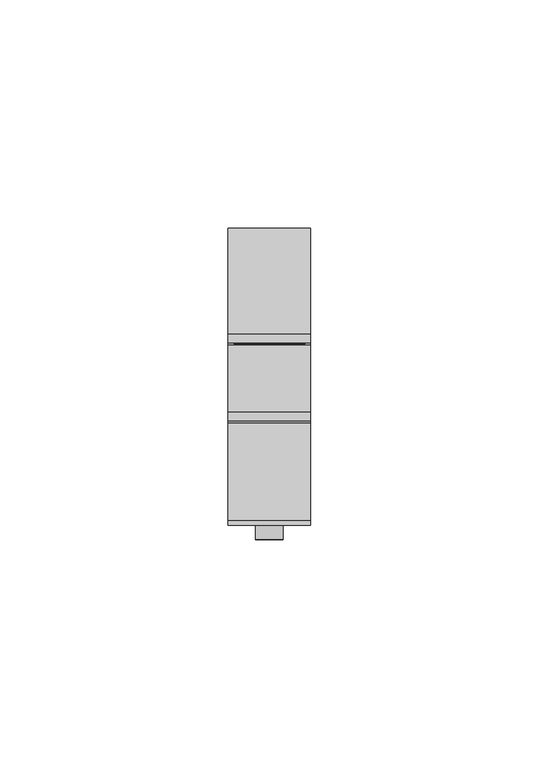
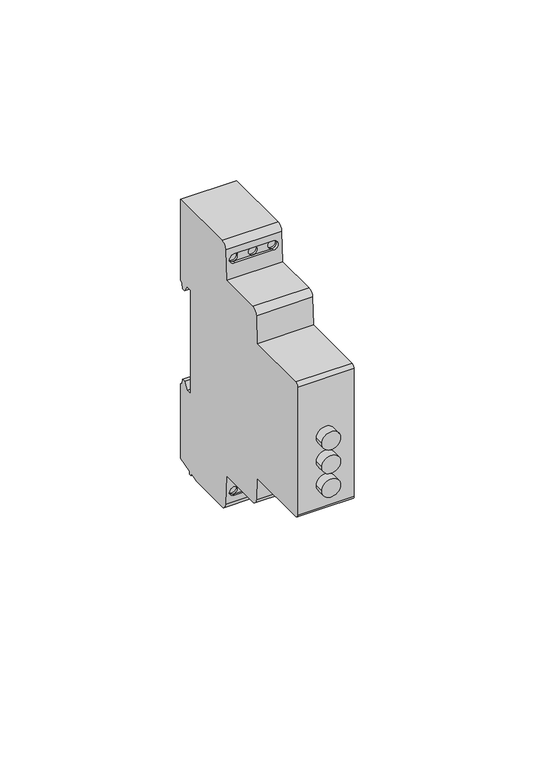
"""IFC4 building model written with IfcOpenShell, lengths in millimetres: proxy geometry, TDM_РЕЛЕ ВРЕМЕНИ НА DIN-РЕЙКУ СЕРИИ РВМ : РВМ 0.1с/10дн 8А 12-230 AC."""

from ifc_helpers import new_model, si_unit, point, frame, frame_2d, origin, place, context, project, spatial, polyline, circle_curve, ellipse_curve, trimmed, segment, composite_curve, outline, extrude, source, transform, mapped, element, save
from ifc_brep_helpers import plane_surface, cylinder_surface, revolved_surface, advanced_brep


def electrical_equipment_08aeb7cd(model_context):
    return source(origin(), model_context, "Body", "SolidModel", [
        extrude(outline(composite_curve([segment(trimmed(circle_curve(frame_2d((1.4993959, 0.0)), 3.0), [point((1.4993959, -3.0))], [point((1.4993959, 3.0))], False, "CARTESIAN"), True, "CONTINUOUS"), segment(trimmed(circle_curve(frame_2d((1.4993959, 0.0)), 3.0), [point((1.4993959, 3.0))], [point((1.4993959, -3.0))], False, "CARTESIAN"), True, "CONTINUOUS")], self_intersect=False)), frame((0.0, -30.5593993, 0.0), z_axis=(0.0, 1.0, 0.0), x_axis=(0.0, 0.0, 1.0)), (0.0, 0.0, 1.0), 3.0593993),
        extrude(outline(composite_curve([segment(trimmed(circle_curve(frame_2d((-6.5006041, 0.0)), 3.0), [point((-6.5006041, -3.0))], [point((-6.5006041, 3.0))], False, "CARTESIAN"), True, "CONTINUOUS"), segment(trimmed(circle_curve(frame_2d((-6.5006041, 0.0)), 3.0), [point((-6.5006041, 3.0))], [point((-6.5006041, -3.0))], False, "CARTESIAN"), True, "CONTINUOUS")], self_intersect=False)), frame((0.0, -30.5593993, 0.0), z_axis=(0.0, 1.0, 0.0), x_axis=(0.0, 0.0, 1.0)), (0.0, 0.0, 1.0), 3.0593993),
        extrude(outline(composite_curve([segment(trimmed(circle_curve(frame_2d((-14.5006041, 0.0)), 3.0), [point((-14.5006041, -3.0))], [point((-14.5006041, 3.0))], False, "CARTESIAN"), True, "CONTINUOUS"), segment(trimmed(circle_curve(frame_2d((-14.5006041, 0.0)), 3.0), [point((-14.5006041, 3.0))], [point((-14.5006041, -3.0))], False, "CARTESIAN"), True, "CONTINUOUS")], self_intersect=False)), frame((0.0, -30.5593993, 0.0), z_axis=(0.0, 1.0, 0.0), x_axis=(0.0, 0.0, 1.0)), (0.0, 0.0, 1.0), 3.0593993),
        extrude(outline(polyline([(7.75, 16.6821204), (7.75, 14.1138713), (-7.75, 14.1138713), (-7.75, 16.6821204), (7.75, 16.6821204)])), frame((0.0, 0.0, -44.0625), z_axis=(0.0, 0.0, 1.0), x_axis=(1.0, 0.0, 0.0)), (0.0, 0.0, 1.0), 87.8126081),
        advanced_brep(
        [(9.0, 31.7632568, 17.7057143), (9.0, 33.7632568, 17.7057143), (9.0, 35.0790621, 15.4266726), (9.0, 36.2042493, 15.4266726), (9.0, 36.5256071, 17.2491835), (9.0, 37.5, 17.8117495), (9.0, 37.5, 45.0), (9.0, 14.5, 45.0), (9.0, 12.5, 43.0), (9.0, 11.9790691, 33.0600462), (9.0, -2.6020709, 33.0600462), (9.0, -4.5993299, 31.1647181), (9.0, -5.0796325, 22.0), (9.0, -26.3777313, 22.0), (9.0, -27.5, 20.8777313), (9.0, -27.5, -22.3875602), (9.0, -26.3875602, -23.5), (9.0, -5.0010208, -23.5), (9.0, -4.5993299, -31.1647181), (9.0, -2.6020709, -33.0600462), (9.0, 11.9790691, -33.0600462), (9.0, 12.5, -43.0), (9.0, 14.5, -45.0), (9.0, 28.5548029, -45.0), (9.0, 31.6319498, -44.175481), (9.0, 31.6319498, -45.0), (9.0, 32.5, -45.0), (9.0, 32.5, -43.9428876), (9.0, 37.5, -42.6031417), (9.0, 37.5, -17.4003208), (9.0, 36.5256071, -16.8377548), (9.0, 36.2042493, -15.0152439), (9.0, 35.0790621, -15.0152439), (9.0, 33.7632568, -17.2942857), (9.0, 31.7632568, -17.2942857), (-9.0, 31.7632568, 17.7057143), (-9.0, 31.7632568, -17.2942857), (-9.0, 33.7632568, -17.2942857), (-9.0, 35.0790621, -15.0152439), (-9.0, 36.2042493, -15.0152439), (-9.0, 36.5256071, -16.8377548), (-9.0, 37.5, -17.4003208), (-9.0, 37.5, -42.6031417), (-9.0, 32.5, -43.9428876), (-9.0, 32.5, -45.0), (-9.0, 31.6319498, -45.0), (-9.0, 31.6319498, -44.175481), (-9.0, 28.5548029, -45.0), (-9.0, 14.5, -45.0), (-9.0, 12.5, -43.0), (-9.0, 11.9790691, -33.0600462), (-9.0, -2.6020709, -33.0600462), (-9.0, -4.5993299, -31.1647181), (-9.0, -5.0010208, -23.5), (-9.0, -26.3875602, -23.5), (-9.0, -27.5, -22.3875602), (-9.0, -27.5, 20.8777313), (-9.0, -26.3777313, 22.0), (-9.0, -5.0796325, 22.0), (-9.0, -4.5993299, 31.1647181), (-9.0, -2.6020709, 33.0600462), (-9.0, 11.9790691, 33.0600462), (-9.0, 12.5, 43.0), (-9.0, 14.5, 45.0), (-9.0, 37.5, 45.0), (-9.0, 37.5, 17.8117495), (-9.0, 36.5256071, 17.2491835), (-9.0, 36.2042493, 15.4266726), (-9.0, 35.0790621, 15.4266726), (-9.0, 33.7632568, 17.7057143), (6.25, 13.0378948, -37.8135116), (0.0239013, 13.0378948, -37.8135116), (1.5239013, 13.0378948, -39.3135116), (0.0239013, 13.0378948, -40.8135116), (6.25, 13.0378948, -40.8135116), (4.75, 13.0378948, -39.3135116), (-6.25, 13.0378948, -37.8135116), (-4.75, 13.0378948, -39.3135116), (-6.25, 13.0378948, -40.8135116), (-1.4760987, 13.0378948, -39.3135116), (6.25, 13.0378948, 40.8135116), (0.0239013, 13.0378948, 40.8135116), (1.5239013, 13.0378948, 39.3135116), (0.0239013, 13.0378948, 37.8135116), (6.25, 13.0378948, 37.8135116), (4.75, 13.0378948, 39.3135116), (-6.25, 13.0378948, 40.8135116), (-4.75, 13.0378948, 39.3135116), (-6.25, 13.0378948, 37.8135116), (-1.4760987, 13.0378948, 39.3135116), (6.25, 12.2281877, 37.8135116), (0.0239013, 12.2281877, 37.8135116), (-6.25, 12.2281877, 37.8135116), (-7.75, 12.3067993, 39.3135116), (-6.25, 12.385411, 40.8135116), (0.0239013, 12.385411, 40.8135116), (6.25, 12.385411, 40.8135116), (7.75, 12.3067993, 39.3135116), (0.0239013, 12.2281877, -37.8135116), (6.25, 12.2281877, -37.8135116), (7.75, 12.3067993, -39.3135116), (6.25, 12.385411, -40.8135116), (0.0239013, 12.385411, -40.8135116), (-6.25, 12.385411, -40.8135116), (-7.75, 12.3067993, -39.3135116), (-6.25, 12.2281877, -37.8135116), (-7.75, 13.0378948, -39.3135116), (7.75, 13.0378948, -39.3135116), (7.75, 13.0378948, 39.3135116), (-7.75, 13.0378948, 39.3135116), (-4.75, 15.2465164, -39.3135116), (-7.75, 15.2465164, -39.3135116), (1.5239013, 15.2465164, -39.3135116), (-1.4760987, 15.2465164, -39.3135116), (4.75, 15.2465164, -39.3135116), (7.75, 15.2465164, -39.3135116), (-4.75, 15.2465164, 39.3135116), (-7.75, 15.2465164, 39.3135116), (1.5239013, 15.2465164, 39.3135116), (-1.4760987, 15.2465164, 39.3135116), (4.75, 15.2465164, 39.3135116), (7.75, 15.2465164, 39.3135116)],
        [
            (0, 1),
            (1, 2),
            (2, 3),
            (3, 4),
            (4, 5),
            (5, 6),
            (6, 7),
            (7, 8, circle_curve(frame((9.0, 14.5, 43.0), z_axis=(1.0, 0.0, 0.0), x_axis=(0.0, -1.0, 0.0)), 2.0)),
            (8, 9),
            (9, 10),
            (10, 11, circle_curve(frame((9.0, -2.6020709, 31.0600462), z_axis=(1.0, 0.0, 0.0), x_axis=(0.0, -1.0, 0.0)), 2.0)),
            (11, 12),
            (12, 13),
            (13, 14, circle_curve(frame((9.0, -26.3777313, 20.8777313), z_axis=(1.0, 0.0, 0.0), x_axis=(0.0, -1.0, 0.0)), 1.1222687)),
            (14, 15),
            (15, 16, circle_curve(frame((9.0, -26.3875602, -22.3875602), z_axis=(1.0, 0.0, 0.0), x_axis=(0.0, -1.0, 0.0)), 1.1124398)),
            (16, 17),
            (17, 18),
            (18, 19, circle_curve(frame((9.0, -2.6020709, -31.0600462), z_axis=(1.0, 0.0, 0.0), x_axis=(0.0, -1.0, 0.0)), 2.0)),
            (19, 20),
            (20, 21),
            (21, 22, circle_curve(frame((9.0, 14.5, -43.0), z_axis=(1.0, 0.0, 0.0), x_axis=(0.0, -1.0, 0.0)), 2.0)),
            (22, 23),
            (23, 24),
            (24, 25),
            (25, 26),
            (26, 27),
            (27, 28),
            (28, 29),
            (29, 30),
            (30, 31),
            (31, 32),
            (32, 33),
            (33, 34),
            (34, 0),
            (35, 36),
            (36, 37),
            (37, 38),
            (38, 39),
            (39, 40),
            (40, 41),
            (41, 42),
            (42, 43),
            (43, 44),
            (44, 45),
            (45, 46),
            (46, 47),
            (47, 48),
            (48, 49, circle_curve(frame((-9.0, 14.5, -43.0), z_axis=(-1.0, 0.0, 0.0), x_axis=(0.0, -1.0, 0.0)), 2.0)),
            (49, 50),
            (50, 51),
            (51, 52, circle_curve(frame((-9.0, -2.6020709, -31.0600462), z_axis=(-1.0, 0.0, 0.0), x_axis=(0.0, -1.0, 0.0)), 2.0)),
            (52, 53),
            (53, 54),
            (54, 55, circle_curve(frame((-9.0, -26.3875602, -22.3875602), z_axis=(-1.0, 0.0, 0.0), x_axis=(0.0, -1.0, 0.0)), 1.1124398)),
            (55, 56),
            (56, 57, circle_curve(frame((-9.0, -26.3777313, 20.8777313), z_axis=(-1.0, 0.0, 0.0), x_axis=(0.0, -1.0, 0.0)), 1.1222687)),
            (57, 58),
            (58, 59),
            (59, 60, circle_curve(frame((-9.0, -2.6020709, 31.0600462), z_axis=(-1.0, 0.0, 0.0), x_axis=(0.0, -1.0, 0.0)), 2.0)),
            (60, 61),
            (61, 62),
            (62, 63, circle_curve(frame((-9.0, 14.5, 43.0), z_axis=(-1.0, 0.0, 0.0), x_axis=(0.0, -1.0, 0.0)), 2.0)),
            (63, 64),
            (64, 65),
            (65, 66),
            (66, 67),
            (67, 68),
            (68, 69),
            (69, 35),
            (70, 71),
            (71, 72, circle_curve(frame((0.0239013, 13.0378948, -39.3135116), z_axis=(0.0, 1.0, 0.0), x_axis=(-1.0, 0.0, 0.0)), 1.5)),
            (72, 73, circle_curve(frame((0.0239013, 13.0378948, -39.3135116), z_axis=(0.0, 1.0, 0.0), x_axis=(-1.0, 0.0, 0.0)), 1.5)),
            (73, 74),
            (74, 75, circle_curve(frame((6.25, 13.0378948, -39.3135116), z_axis=(0.0, 1.0, 0.0), x_axis=(1.0, 0.0, 0.0)), 1.5)),
            (75, 70, circle_curve(frame((6.25, 13.0378948, -39.3135116), z_axis=(0.0, 1.0, 0.0), x_axis=(1.0, 0.0, 0.0)), 1.5)),
            (71, 76),
            (76, 77, circle_curve(frame((-6.25, 13.0378948, -39.3135116), z_axis=(0.0, 1.0, 0.0), x_axis=(-1.0, 0.0, 0.0)), 1.5)),
            (77, 78, circle_curve(frame((-6.25, 13.0378948, -39.3135116), z_axis=(0.0, 1.0, 0.0), x_axis=(-1.0, 0.0, 0.0)), 1.5)),
            (78, 73),
            (73, 79, circle_curve(frame((0.0239013, 13.0378948, -39.3135116), z_axis=(0.0, 1.0, 0.0), x_axis=(-1.0, 0.0, 0.0)), 1.5)),
            (79, 71, circle_curve(frame((0.0239013, 13.0378948, -39.3135116), z_axis=(0.0, 1.0, 0.0), x_axis=(-1.0, 0.0, 0.0)), 1.5)),
            (80, 81),
            (81, 82, circle_curve(frame((0.0239013, 13.0378948, 39.3135116), z_axis=(0.0, 1.0, 0.0), x_axis=(-1.0, 0.0, 0.0)), 1.5)),
            (82, 83, circle_curve(frame((0.0239013, 13.0378948, 39.3135116), z_axis=(0.0, 1.0, 0.0), x_axis=(-1.0, 0.0, 0.0)), 1.5)),
            (83, 84),
            (84, 85, circle_curve(frame((6.25, 13.0378948, 39.3135116), z_axis=(0.0, 1.0, 0.0), x_axis=(1.0, 0.0, 0.0)), 1.5)),
            (85, 80, circle_curve(frame((6.25, 13.0378948, 39.3135116), z_axis=(0.0, 1.0, 0.0), x_axis=(1.0, 0.0, 0.0)), 1.5)),
            (81, 86),
            (86, 87, circle_curve(frame((-6.25, 13.0378948, 39.3135116), z_axis=(0.0, 1.0, 0.0), x_axis=(-1.0, 0.0, 0.0)), 1.5)),
            (87, 88, circle_curve(frame((-6.25, 13.0378948, 39.3135116), z_axis=(0.0, 1.0, 0.0), x_axis=(-1.0, 0.0, 0.0)), 1.5)),
            (88, 83),
            (83, 89, circle_curve(frame((0.0239013, 13.0378948, 39.3135116), z_axis=(0.0, 1.0, 0.0), x_axis=(-1.0, 0.0, 0.0)), 1.5)),
            (89, 81, circle_curve(frame((0.0239013, 13.0378948, 39.3135116), z_axis=(0.0, 1.0, 0.0), x_axis=(-1.0, 0.0, 0.0)), 1.5)),
            (0, 35),
            (69, 1),
            (68, 2),
            (67, 3),
            (66, 4),
            (65, 5),
            (64, 6),
            (63, 7),
            (62, 8),
            (61, 9),
            (90, 91),
            (91, 92),
            (92, 93, ellipse_curve(frame((-6.25, 12.3067993, 39.3135116), z_axis=(0.0, 0.9986295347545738, -0.052335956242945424), x_axis=(0.0, -0.052335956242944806, -0.9986295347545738)), 1.5020585, 1.5)),
            (93, 94, ellipse_curve(frame((-6.25, 12.3067993, 39.3135116), z_axis=(0.0, 0.9986295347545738, -0.052335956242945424), x_axis=(0.0, -0.052335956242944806, -0.9986295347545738)), 1.5020585, 1.5)),
            (94, 95),
            (95, 96),
            (96, 97, ellipse_curve(frame((6.25, 12.3067993, 39.3135116), z_axis=(0.0, 0.9986295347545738, -0.052335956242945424), x_axis=(0.0, -0.052335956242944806, -0.9986295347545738)), 1.5020585, 1.5)),
            (97, 90, ellipse_curve(frame((6.25, 12.3067993, 39.3135116), z_axis=(0.0, 0.9986295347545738, -0.052335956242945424), x_axis=(0.0, -0.052335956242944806, -0.9986295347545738)), 1.5020585, 1.5)),
            (60, 10),
            (59, 11),
            (58, 12),
            (57, 13),
            (56, 14),
            (55, 15),
            (16, 54),
            (53, 17),
            (52, 18),
            (51, 19),
            (50, 20),
            (49, 21),
            (98, 99),
            (99, 100, ellipse_curve(frame((6.25, 12.3067993, -39.3135116), z_axis=(0.0, 0.9986295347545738, 0.05233595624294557), x_axis=(0.0, -0.05233595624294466, 0.9986295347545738)), 1.5020585, 1.5)),
            (100, 101, ellipse_curve(frame((6.25, 12.3067993, -39.3135116), z_axis=(0.0, 0.9986295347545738, 0.05233595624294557), x_axis=(0.0, -0.05233595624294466, 0.9986295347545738)), 1.5020585, 1.5)),
            (101, 102),
            (102, 103),
            (103, 104, ellipse_curve(frame((-6.25, 12.3067993, -39.3135116), z_axis=(0.0, 0.9986295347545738, 0.05233595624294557), x_axis=(0.0, -0.05233595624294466, 0.9986295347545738)), 1.5020585, 1.5)),
            (104, 105, ellipse_curve(frame((-6.25, 12.3067993, -39.3135116), z_axis=(0.0, 0.9986295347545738, 0.05233595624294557), x_axis=(0.0, -0.05233595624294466, 0.9986295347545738)), 1.5020585, 1.5)),
            (105, 98),
            (48, 22),
            (47, 23),
            (25, 45),
            (44, 26),
            (43, 27),
            (46, 24),
            (28, 42),
            (41, 29),
            (40, 30),
            (39, 31),
            (38, 32),
            (37, 33),
            (36, 34),
            (70, 99),
            (105, 76),
            (103, 78),
            (78, 106, circle_curve(frame((-6.25, 13.0378948, -39.3135116), z_axis=(0.0, 1.0, 0.0), x_axis=(-1.0, 0.0, 0.0)), 1.5)),
            (106, 76, circle_curve(frame((-6.25, 13.0378948, -39.3135116), z_axis=(0.0, 1.0, 0.0), x_axis=(-1.0, 0.0, 0.0)), 1.5)),
            (101, 74),
            (70, 107, circle_curve(frame((6.25, 13.0378948, -39.3135116), z_axis=(0.0, 1.0, 0.0), x_axis=(1.0, 0.0, 0.0)), 1.5)),
            (107, 74, circle_curve(frame((6.25, 13.0378948, -39.3135116), z_axis=(0.0, 1.0, 0.0), x_axis=(1.0, 0.0, 0.0)), 1.5)),
            (84, 90),
            (96, 80),
            (80, 108, circle_curve(frame((6.25, 13.0378948, 39.3135116), z_axis=(0.0, 1.0, 0.0), x_axis=(1.0, 0.0, 0.0)), 1.5)),
            (108, 84, circle_curve(frame((6.25, 13.0378948, 39.3135116), z_axis=(0.0, 1.0, 0.0), x_axis=(1.0, 0.0, 0.0)), 1.5)),
            (94, 86),
            (92, 88),
            (88, 109, circle_curve(frame((-6.25, 13.0378948, 39.3135116), z_axis=(0.0, 1.0, 0.0), x_axis=(-1.0, 0.0, 0.0)), 1.5)),
            (109, 86, circle_curve(frame((-6.25, 13.0378948, 39.3135116), z_axis=(0.0, 1.0, 0.0), x_axis=(-1.0, 0.0, 0.0)), 1.5)),
            (110, 111, circle_curve(frame((-6.25, 15.2465164, -39.3135116), z_axis=(0.0, -1.0, 0.0), x_axis=(-1.0, 0.0, 0.0)), 1.5)),
            (111, 110, circle_curve(frame((-6.25, 15.2465164, -39.3135116), z_axis=(0.0, -1.0, 0.0), x_axis=(-1.0, 0.0, 0.0)), 1.5)),
            (112, 113, circle_curve(frame((0.0239013, 15.2465164, -39.3135116), z_axis=(0.0, -1.0, 0.0), x_axis=(-1.0, 0.0, 0.0)), 1.5)),
            (113, 112, circle_curve(frame((0.0239013, 15.2465164, -39.3135116), z_axis=(0.0, -1.0, 0.0), x_axis=(-1.0, 0.0, 0.0)), 1.5)),
            (114, 115, circle_curve(frame((6.25, 15.2465164, -39.3135116), z_axis=(0.0, -1.0, 0.0), x_axis=(1.0, 0.0, 0.0)), 1.5)),
            (115, 114, circle_curve(frame((6.25, 15.2465164, -39.3135116), z_axis=(0.0, -1.0, 0.0), x_axis=(1.0, 0.0, 0.0)), 1.5)),
            (116, 117, circle_curve(frame((-6.25, 15.2465164, 39.3135116), z_axis=(0.0, -1.0, 0.0), x_axis=(-1.0, 0.0, 0.0)), 1.5)),
            (117, 116, circle_curve(frame((-6.25, 15.2465164, 39.3135116), z_axis=(0.0, -1.0, 0.0), x_axis=(-1.0, 0.0, 0.0)), 1.5)),
            (118, 119, circle_curve(frame((0.0239013, 15.2465164, 39.3135116), z_axis=(0.0, -1.0, 0.0), x_axis=(-1.0, 0.0, 0.0)), 1.5)),
            (119, 118, circle_curve(frame((0.0239013, 15.2465164, 39.3135116), z_axis=(0.0, -1.0, 0.0), x_axis=(-1.0, 0.0, 0.0)), 1.5)),
            (120, 121, circle_curve(frame((6.25, 15.2465164, 39.3135116), z_axis=(0.0, -1.0, 0.0), x_axis=(1.0, 0.0, 0.0)), 1.5)),
            (121, 120, circle_curve(frame((6.25, 15.2465164, 39.3135116), z_axis=(0.0, -1.0, 0.0), x_axis=(1.0, 0.0, 0.0)), 1.5)),
            (110, 77),
            (106, 111),
            (112, 72),
            (79, 113),
            (114, 75),
            (107, 115),
            (116, 87),
            (109, 117),
            (118, 82),
            (89, 119),
            (120, 85),
            (108, 121),
        ],
        [
            plane_surface(frame((9.0, 31.7632568, 17.7057143), z_axis=(1.0, 0.0, 0.0), x_axis=(0.0, 1.0, 0.0))),
            plane_surface(frame((-9.0, 31.7632568, 17.7057143), z_axis=(-1.0, 0.0, 0.0), x_axis=(0.0, -1.0, 0.0))),
            plane_surface(frame((-7.75, 13.0378948, -37.8135116), z_axis=(0.0, -1.0, 0.0), x_axis=(1.0, 0.0, 0.0))),
            plane_surface(frame((9.0, 31.7632568, 17.7057143), z_axis=(0.0, 0.0, -1.0), x_axis=(-1.0, 0.0, 0.0))),
            plane_surface(frame((9.0, 33.7632568, 17.7057143), z_axis=(0.0, -0.8660254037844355, -0.5000000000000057), x_axis=(-1.0, 0.0, 0.0))),
            plane_surface(frame((9.0, 35.0790621, 15.4266726), z_axis=(0.0, 0.0, -1.0), x_axis=(-1.0, 0.0, 0.0))),
            plane_surface(frame((9.0, 36.2042493, 15.4266726), z_axis=(0.0, 0.984807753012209, -0.17364817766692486), x_axis=(-1.0, 0.0, 0.0))),
            plane_surface(frame((9.0, 36.5256071, 17.2491835), z_axis=(0.0, 0.5000000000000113, -0.8660254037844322), x_axis=(-1.0, 0.0, 0.0))),
            plane_surface(frame((9.0, 37.5, 17.8117495), z_axis=(0.0, 1.0, 0.0), x_axis=(-1.0, 0.0, 0.0))),
            plane_surface(frame((9.0, 37.5, 45.0), z_axis=(0.0, 0.0, 1.0), x_axis=(-1.0, 0.0, 0.0))),
            cylinder_surface(frame((-9.0, 14.5, 43.0), z_axis=(1.0, 0.0, 0.0), x_axis=(0.0, -1.0, 0.0)), 2.0),
            plane_surface(frame((9.0, 12.5, 43.0), z_axis=(0.0, -0.9986295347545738, 0.052335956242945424), x_axis=(-1.0, 0.0, 0.0))),
            plane_surface(frame((9.0, 11.9790691, 33.0600462), z_axis=(0.0, 0.0, 1.0), x_axis=(-1.0, 0.0, 0.0))),
            cylinder_surface(frame((-9.0, -2.6020709, 31.0600462), z_axis=(1.0, 0.0, 0.0), x_axis=(0.0, -1.0, 0.0)), 2.0),
            plane_surface(frame((9.0, -4.5993299, 31.1647181), z_axis=(0.0, -0.9986295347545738, 0.052335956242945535), x_axis=(-1.0, 0.0, 0.0))),
            plane_surface(frame((9.0, -5.0796325, 22.0), z_axis=(0.0, 0.0, 1.0), x_axis=(-1.0, 0.0, 0.0))),
            cylinder_surface(frame((-9.0, -26.3777313, 20.8777313), z_axis=(1.0, 0.0, 0.0), x_axis=(0.0, -1.0, 0.0)), 1.1222687),
            plane_surface(frame((9.0, -27.5, 20.8777313), z_axis=(0.0, -1.0, 0.0), x_axis=(-1.0, 0.0, 0.0))),
            plane_surface(frame((9.0, -26.3875602, -23.5), z_axis=(0.0, 0.0, -1.0), x_axis=(-1.0, 0.0, 0.0))),
            plane_surface(frame((9.0, -5.0010208, -23.5), z_axis=(0.0, -0.9986295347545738, -0.05233595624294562), x_axis=(-1.0, 0.0, 0.0))),
            cylinder_surface(frame((-9.0, -2.6020709, -31.0600462), z_axis=(1.0, 0.0, 0.0), x_axis=(0.0, -1.0, 0.0)), 2.0),
            plane_surface(frame((9.0, -2.6020709, -33.0600462), z_axis=(0.0, 0.0, -1.0), x_axis=(-1.0, 0.0, 0.0))),
            plane_surface(frame((9.0, 11.9790691, -33.0600462), z_axis=(0.0, -0.9986295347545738, -0.05233595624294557), x_axis=(-1.0, 0.0, 0.0))),
            cylinder_surface(frame((-9.0, 14.5, -43.0), z_axis=(1.0, 0.0, 0.0), x_axis=(0.0, -1.0, 0.0)), 2.0),
            plane_surface(frame((9.0, 14.5, -45.0), z_axis=(0.0, 0.0, -1.0), x_axis=(-1.0, 0.0, 0.0))),
            plane_surface(frame((9.0, 31.6319498, -45.0), z_axis=(0.0, 0.0, -1.0), x_axis=(-1.0, 0.0, 0.0))),
            plane_surface(frame((9.0, 32.5, -45.0), z_axis=(0.0, 1.0, 0.0), x_axis=(-1.0, 0.0, 0.0))),
            plane_surface(frame((9.0, 28.5548029, -45.0), z_axis=(0.0, 0.2588190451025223, -0.965925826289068), x_axis=(-1.0, 0.0, 0.0))),
            plane_surface(frame((9.0, 37.5, -42.6031417), z_axis=(0.0, 1.0, 0.0), x_axis=(-1.0, 0.0, 0.0))),
            plane_surface(frame((9.0, 37.5, -17.4003208), z_axis=(0.0, 0.5000000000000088, 0.8660254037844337), x_axis=(-1.0, 0.0, 0.0))),
            plane_surface(frame((9.0, 36.5256071, -16.8377548), z_axis=(0.0, 0.9848077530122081, 0.17364817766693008), x_axis=(-1.0, 0.0, 0.0))),
            plane_surface(frame((9.0, 36.2042493, -15.0152439), z_axis=(0.0, 0.0, 1.0), x_axis=(-1.0, 0.0, 0.0))),
            plane_surface(frame((9.0, 35.0790621, -15.0152439), z_axis=(0.0, -0.8660254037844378, 0.5000000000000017), x_axis=(-1.0, 0.0, 0.0))),
            plane_surface(frame((9.0, 33.7632568, -17.2942857), z_axis=(0.0, 0.0, 1.0), x_axis=(-1.0, 0.0, 0.0))),
            plane_surface(frame((9.0, 31.7632568, -17.2942857), z_axis=(0.0, 1.0, 0.0), x_axis=(-1.0, 0.0, 0.0))),
            cylinder_surface(frame((-9.0, -26.3875602, -22.3875602), z_axis=(1.0, 0.0, 0.0), x_axis=(0.0, -1.0, 0.0)), 1.1124398),
            plane_surface(frame((6.25, 0.0, -37.8135116), z_axis=(0.0, 0.0, -1.0), x_axis=(0.0, 1.0, 0.0))),
            revolved_surface(polyline([(-7.75, 12.228187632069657, -39.3135116), (-7.75, 13.0378948, -39.3135116)]), (-6.25, 13.0378948, -39.3135116), (0.0, -1.0, 0.0)),
            plane_surface(frame((-6.25, 0.0, -40.8135116), z_axis=(0.0, 0.0, 1.0), x_axis=(0.0, 1.0, 0.0))),
            revolved_surface(polyline([(7.75, 12.228187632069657, -39.3135116), (7.75, 13.0378948, -39.3135116)]), (6.25, 13.0378948, -39.3135116), (0.0, -1.0, 0.0)),
            revolved_surface(polyline([(7.75, 12.228187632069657, 39.3135116), (7.75, 13.0378948, 39.3135116)]), (6.25, 0.0, 39.3135116), (0.0, -1.0, 0.0)),
            plane_surface(frame((6.25, 0.0, 40.8135116), z_axis=(0.0, 0.0, -1.0), x_axis=(0.0, 1.0, 0.0))),
            revolved_surface(polyline([(-7.75, 12.228187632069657, 39.3135116), (-7.75, 13.0378948, 39.3135116)]), (-6.25, 0.0, 39.3135116), (0.0, -1.0, 0.0)),
            plane_surface(frame((-6.25, 0.0, 37.8135116), z_axis=(0.0, 0.0, 1.0), x_axis=(0.0, 1.0, 0.0))),
            plane_surface(frame((-7.75, 15.2465164, -39.3135116), z_axis=(0.0, -1.0, 0.0), x_axis=(0.0, 0.0, 1.0))),
            revolved_surface(polyline([(-7.75, 13.0378948, -39.3135116), (-7.75, 15.2465164, -39.3135116)]), (-6.25, 15.2465164, -39.3135116), (0.0, -1.0, 0.0)),
            revolved_surface(polyline([(-1.4760987, 13.0378948, -39.3135116), (-1.4760987, 15.2465164, -39.3135116)]), (0.0239013, 0.0, -39.3135116), (0.0, -1.0, 0.0)),
            revolved_surface(polyline([(7.75, 13.0378948, -39.3135116), (7.75, 15.2465164, -39.3135116)]), (6.25, 0.0, -39.3135116), (0.0, -1.0, 0.0)),
            revolved_surface(polyline([(-7.75, 13.0378948, 39.3135116), (-7.75, 15.2465164, 39.3135116)]), (-6.25, 0.0, 39.3135116), (0.0, -1.0, 0.0)),
            revolved_surface(polyline([(-1.4760987, 13.0378948, 39.3135116), (-1.4760987, 15.2465164, 39.3135116)]), (0.0239013, 0.0, 39.3135116), (0.0, -1.0, 0.0)),
            revolved_surface(polyline([(7.75, 13.0378948, 39.3135116), (7.75, 15.2465164, 39.3135116)]), (6.25, 0.0, 39.3135116), (0.0, -1.0, 0.0)),
            plane_surface(frame((9.0, 31.6319498, -44.175481), z_axis=(0.0, -1.0, 0.0), x_axis=(-1.0, 0.0, 0.0))),
            plane_surface(frame((9.0, 32.5, -43.9428876), z_axis=(0.0, 0.2588190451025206, -0.9659258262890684), x_axis=(-1.0, 0.0, 0.0))),
        ],
        [
            (0, [[1, 2, 3, 4, 5, 6, 7, 8, 9, 10, 11, 12, 13, 14, 15, 16, 17, 18, 19, 20, 21, 22, 23, 24, 25, 26, 27, 28, 29, 30, 31, 32, 33, 34, 35]]),
            (1, [[36, 37, 38, 39, 40, 41, 42, 43, 44, 45, 46, 47, 48, 49, 50, 51, 52, 53, 54, 55, 56, 57, 58, 59, 60, 61, 62, 63, 64, 65, 66, 67, 68, 69, 70]]),
            (2, [[71, 72, 73, 74, 75, 76]]),
            (2, [[77, 78, 79, 80, 81, 82]]),
            (2, [[83, 84, 85, 86, 87, 88]]),
            (2, [[89, 90, 91, 92, 93, 94]]),
            (3, [[-1, 95, -70, 96]]),
            (4, [[-2, -96, -69, 97]]),
            (5, [[-3, -97, -68, 98]]),
            (6, [[-4, -98, -67, 99]]),
            (7, [[-5, -99, -66, 100]]),
            (8, [[-6, -100, -65, 101]]),
            (9, [[-7, -101, -64, 102]]),
            (10, [[-8, -102, -63, 103]]),
            (11, [[-9, -103, -62, 104], [105, 106, 107, 108, 109, 110, 111, 112]]),
            (12, [[-10, -104, -61, 113]]),
            (13, [[-11, -113, -60, 114]]),
            (14, [[-12, -114, -59, 115]]),
            (15, [[-13, -115, -58, 116]]),
            (16, [[-14, -116, -57, 117]]),
            (17, [[-15, -117, -56, 118]]),
            (18, [[-17, 119, -54, 120]]),
            (19, [[-18, -120, -53, 121]]),
            (20, [[-19, -121, -52, 122]]),
            (21, [[-20, -122, -51, 123]]),
            (22, [[-21, -123, -50, 124], [125, 126, 127, 128, 129, 130, 131, 132]]),
            (23, [[-22, -124, -49, 133]]),
            (24, [[-23, -133, -48, 134]]),
            (25, [[-26, 135, -45, 136]]),
            (26, [[-27, -136, -44, 137]]),
            (27, [[-24, -134, -47, 138]]),
            (28, [[-29, 139, -42, 140]]),
            (29, [[-30, -140, -41, 141]]),
            (30, [[-31, -141, -40, 142]]),
            (31, [[-32, -142, -39, 143]]),
            (32, [[-33, -143, -38, 144]]),
            (33, [[-34, -144, -37, 145]]),
            (34, [[-35, -145, -36, -95]]),
            (35, [[-16, -118, -55, -119]]),
            (36, [[146, -125, -132, 147, -77, -71]]),
            (37, [[-147, -131, -130, 148, 149, 150]]),
            (38, [[-148, -129, -128, 151, -74, -80]]),
            (39, [[-146, 152, 153, -151, -127, -126]]),
            (40, [[154, -112, -111, 155, 156, 157]]),
            (41, [[-155, -110, -109, 158, -89, -83]]),
            (42, [[-158, -108, -107, 159, 160, 161]]),
            (43, [[-154, -86, -92, -159, -106, -105]]),
            (44, [[162, 163]]),
            (44, [[164, 165]]),
            (44, [[166, 167]]),
            (44, [[168, 169]]),
            (44, [[170, 171]]),
            (44, [[172, 173]]),
            (45, [[-162, 174, -78, -150, 175]]),
            (45, [[-163, -175, -149, -79, -174]]),
            (46, [[-164, 176, -72, -82, 177]]),
            (46, [[-165, -177, -81, -73, -176]]),
            (47, [[-166, 178, -75, -153, 179]]),
            (47, [[-167, -179, -152, -76, -178]]),
            (48, [[-168, 180, -90, -161, 181]]),
            (48, [[-169, -181, -160, -91, -180]]),
            (49, [[-170, 182, -84, -94, 183]]),
            (49, [[-171, -183, -93, -85, -182]]),
            (50, [[-172, 184, -87, -157, 185]]),
            (50, [[-173, -185, -156, -88, -184]]),
            (51, [[-25, -138, -46, -135]]),
            (52, [[-28, -137, -43, -139]]),
        ],
    ),
    ])


if __name__ == "__main__":
    model = new_model("IFC4")
    model_context = context("Model", 3, world=origin())
    ifc_project = project(units=[si_unit("LENGTHUNIT", "METRE", prefix="MILLI")], contexts=[model_context])
    site = spatial("IfcSite", under=ifc_project)
    building = spatial("IfcBuilding", under=site)
    placement = place(None, origin())
    electrical_equipment_shape = electrical_equipment_08aeb7cd(model_context)
    element("IfcBuildingElementProxy", 1, Name="TDM_РЕЛЕ ВРЕМЕНИ НА DIN-РЕЙКУ СЕРИИ РВМ : РВМ 0.1с/10дн 8А 12-230 AC", ObjectType="TDM_РЕЛЕ ВРЕМЕНИ НА DIN-РЕЙКУ СЕРИИ РВМ : РВМ 0.1с/10дн 8А 12-230 AC", at=placement, inside=building, context=model_context, shape_type="MappedRepresentation", body=[
        mapped(electrical_equipment_shape, transform((0.0, 0.0, 0.0), x_axis=(1.0, 0.0, 0.0), y_axis=(0.0, 1.0, 0.0), z_axis=(0.0, 0.0, 1.0))),
    ])
    save(model, "model.ifc")
